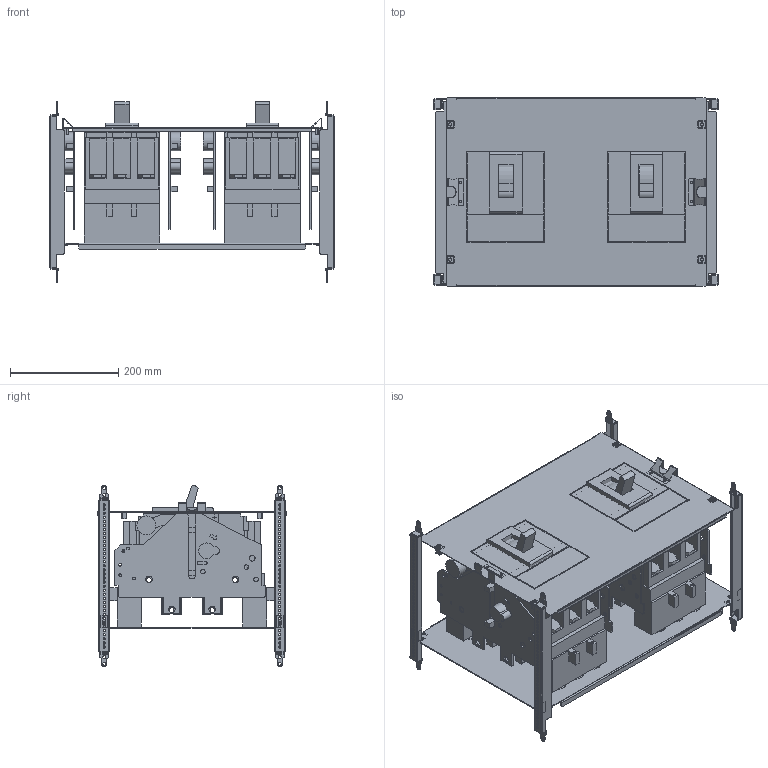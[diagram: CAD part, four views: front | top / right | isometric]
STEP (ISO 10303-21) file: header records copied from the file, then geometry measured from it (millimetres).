
FILE_DESCRIPTION(('CAx-IF Rec.Pracs.---Model Styling and Organization---1.2---2011-12-15','CAx-IF Rec.Pracs.---Geometric and Assembly Validation Properties---4.1---2014-06-16','CAx-IF Rec.Pracs.---PMI Polyline Presentation---2.0---2013-05-24'),'2;1');
FILE_NAME('R5PKIB7V61516.stp','2021-07-29T03:10:15+03:00',(''),(''),'STEP Interface 4.4 by CT CoreTechnologie','3D_Evolution4.4 by CT CoreTechnologie','');
FILE_SCHEMA(('AUTOMOTIVE_DESIGN { 1 0 10303 214 1 1 1 1 }'));
Length unit declared in the file: millimetre
Products named in the file (1): R5PKIB7V61516
Bounding box: 526 x 348 x 335 mm (x, y, z)
Surface area: 2100429.1 mm2 (no closed solid volume)
Topology: 0 solids, 88 shells, 2766 faces, 7913 edges, 5327 vertices
Faces by surface type: plane 1714, cylinder 932, bspline 120
Entity records: 92495 total; most frequent: CARTESIAN_POINT 17507, ORIENTED_EDGE 15710, DIRECTION 15221, EDGE_CURVE 7873, VECTOR 5779, LINE 5779, VERTEX_POINT 5331, AXIS2_PLACEMENT_3D 4721
